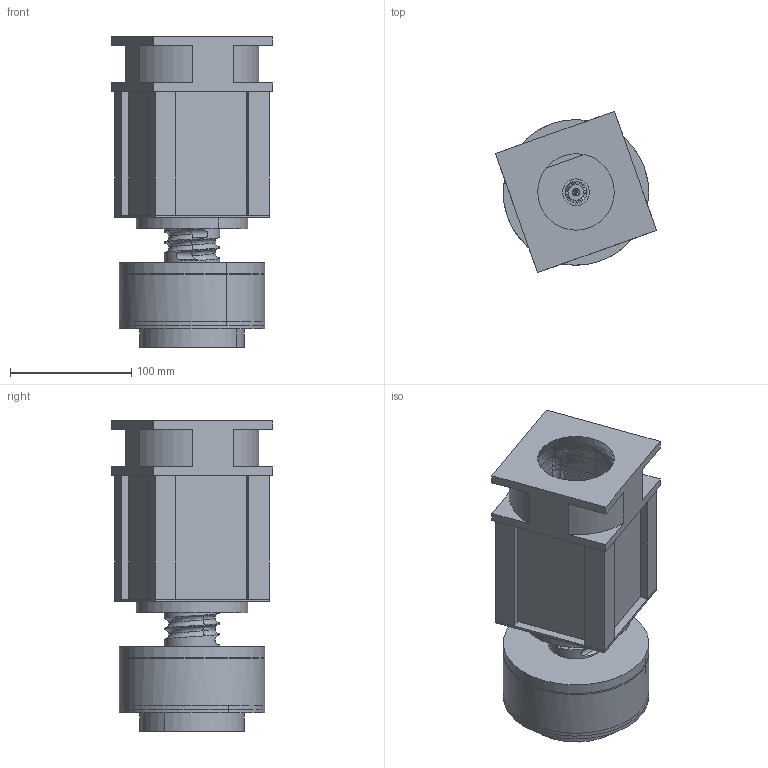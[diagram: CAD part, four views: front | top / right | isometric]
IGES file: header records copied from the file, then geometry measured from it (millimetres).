
Start section: 3D InterOp IGES (v. 2021 1.0.1), Spatial Corp. Copyright (c) 1999-2020.
Global section: file name: Assemblage_Full_v240711_volsolid.igs; native system: Spatial Corp.; preprocessor: 3D InterOp ACIS/IGES; author: Noname; organization: Noname; date: 20240717.175724; units: millimetre
Bounding box: 132.79 x 132.79 x 255.7 mm (x, y, z)
Volume: 1193601 mm3; surface area: 306958.4 mm2
Topology: 15 solids, 15 shells, 585 faces, 1556 edges, 1000 vertices
Faces by surface type: bspline 236, extrusion 174, cylinder 120, revolution 53, cone 2
